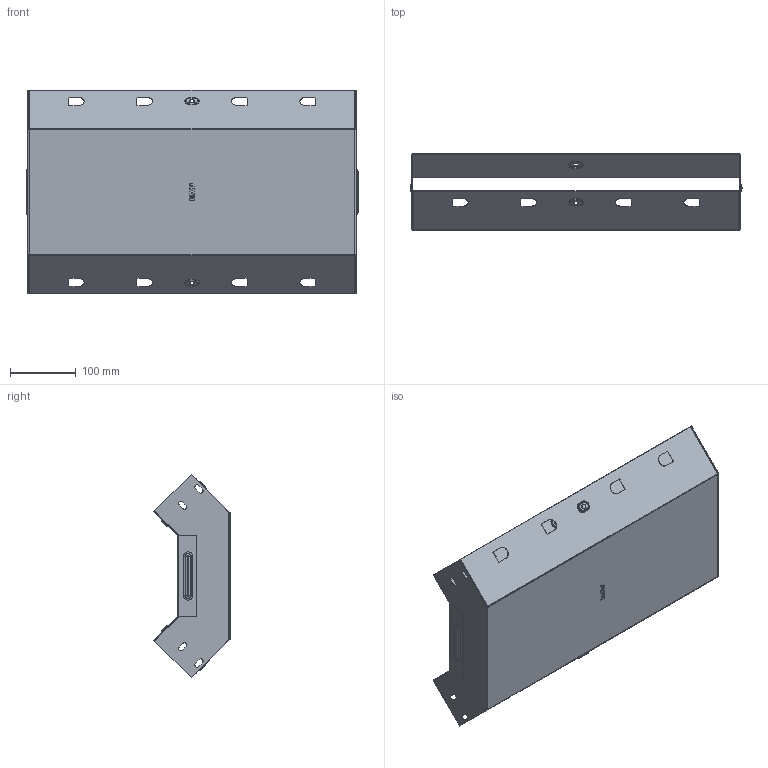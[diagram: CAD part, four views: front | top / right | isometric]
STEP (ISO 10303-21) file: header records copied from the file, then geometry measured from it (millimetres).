
FILE_DESCRIPTION (( 'STEP AP214' ), '1' );
FILE_NAME ('vi9080500_捘.STEP', '2019-06-10T09:23:02', ( '砐錪賧瘔蠈錪 Windows' ), ( '' ), 'SwSTEP 2.0', 'SolidWorks 2018', '' );
FILE_SCHEMA (( 'AUTOMOTIVE_DESIGN' ));
Length unit declared in the file: millimetre
Products named in the file (1): vi9080500_捘
Bounding box: 505.6 x 116.16 x 310.02 mm (x, y, z)
Volume: 272042.2 mm3; surface area: 684109.1 mm2
Topology: 2 solids, 2 shells, 468 faces, 1212 edges, 776 vertices
Faces by surface type: plane 254, cylinder 132, torus 64, bspline 18
Entity records: 15224 total; most frequent: CARTESIAN_POINT 3476, DIRECTION 2438, ORIENTED_EDGE 2424, EDGE_CURVE 1212, VECTOR 816, LINE 816, AXIS2_PLACEMENT_3D 811, VERTEX_POINT 776
